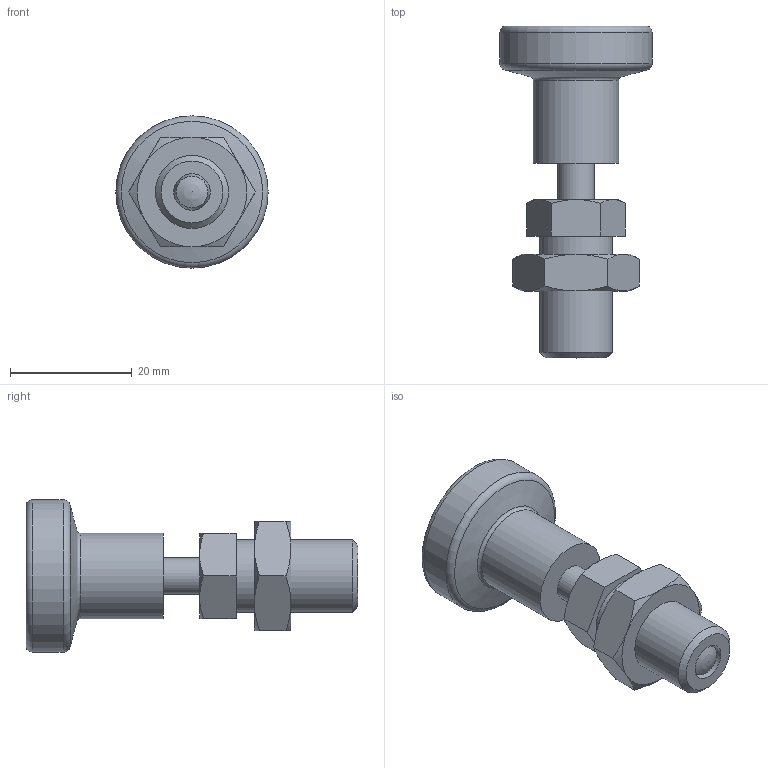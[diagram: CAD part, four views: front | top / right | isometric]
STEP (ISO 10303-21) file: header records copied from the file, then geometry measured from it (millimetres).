
FILE_DESCRIPTION( ( 'STEP AP203' ), '1' );
FILE_NAME( 'C:/Temp/Ganter_Step_05_03_2020/data/3_1/gn617_n/gn617n_akn/Stainless Steel Indexing plunger GN 617-6-AKN-NI (activated-3).stp', '2020-03-12T08:43:07', ( 'License CC BY-ND 4.0' ), ( 'CADENAS' ), ' ', 'PARTsolutions', ' ' );
FILE_SCHEMA( ( 'CONFIG_CONTROL_DESIGN' ) );
Length unit declared in the file: millimetre
Products named in the file (4): Stainless Steel Indexing plunger GN 617-6-AKN-NI (activated-3); _STAINLESS STEEL - Indexing plunger GN 617-6-AKN-NI (3) -2; _Rastbolzen GN 617-6-AKN-NI (1-3)-1; _STAINLESS STEEL - Indexing plunger GN 617-6-AKN-NI-3
Assembly tree (3 placements, depth 2):
  Stainless Steel Indexing plunger GN 617-6-AKN-NI (activated-3)
    _STAINLESS STEEL - Indexing plunger GN 617-6-AKN-NI (3) -2
    _Rastbolzen GN 617-6-AKN-NI (1-3)-1
    _STAINLESS STEEL - Indexing plunger GN 617-6-AKN-NI-3
Bounding box: 25 x 54.5 x 25 mm (x, y, z)
Volume: 10167.8 mm3; surface area: 5709.6 mm2
Topology: 3 solids, 3 shells, 61 faces, 123 edges, 73 vertices
Faces by surface type: plane 23, cone 23, cylinder 10, torus 3, bspline 1, sphere 1
Full cylindrical faces by diameter (mm): 6 x4, 10 x2, 10.376 x1, 12 x1, 13.99 x1, 25 x1
Entity records: 1748 total; most frequent: CARTESIAN_POINT 468, DIRECTION 238, ORIENTED_EDGE 200, AXIS2_PLACEMENT_3D 110, EDGE_CURVE 100, EDGE_LOOP 90, FACE_OUTER_BOUND 74, VERTEX_POINT 72
